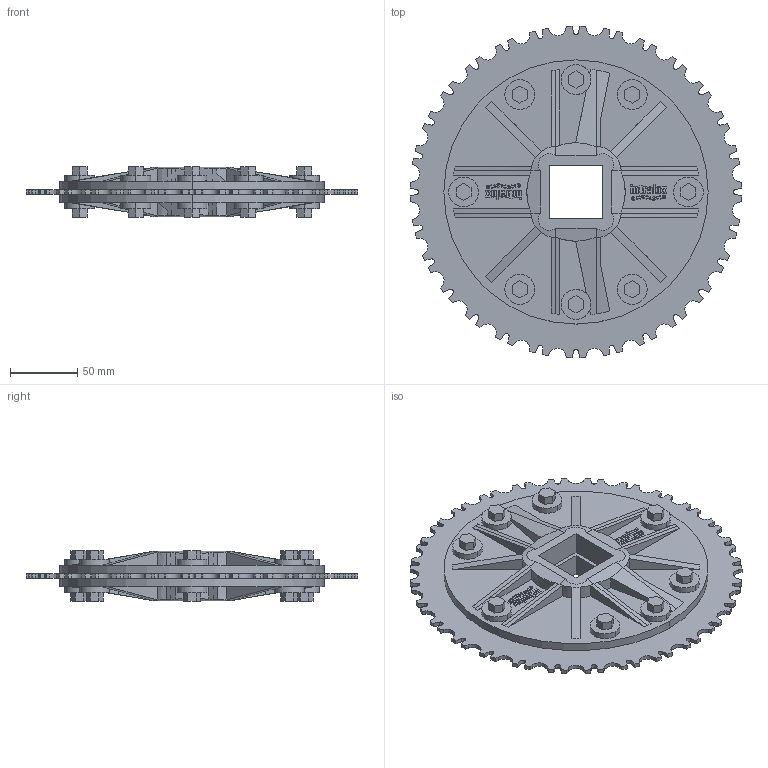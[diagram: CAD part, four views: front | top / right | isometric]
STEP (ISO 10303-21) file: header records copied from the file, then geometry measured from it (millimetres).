
FILE_DESCRIPTION((''),'2;1');
FILE_NAME('S900_SPL_METAL_98X15_40_SQ_ASM','2008-12-12T',('jmumphre'),(''),'PRO/ENGINEER BY PARAMETRIC TECHNOLOGY CORPORATION, 2008150','PRO/ENGINEER BY PARAMETRIC TECHNOLOGY CORPORATION, 2008150','');
FILE_SCHEMA(('CONFIG_CONTROL_DESIGN'));
Length unit declared in the file: inch
Products named in the file (5): S900_TP_METAL_98X254_SQ_AF0; JOINING_PLATE_8X15_40_SQ_AF4; JOINING_PLATE_8X15_40_SQ_AF5; BOLTS_N_NUTS_6-595X0-980_AF8; S900_SPL_METAL_98X15_40_SQ_ASM
Assembly tree (4 placements, depth 2):
  S900_SPL_METAL_98X15_40_SQ_ASM
    S900_TP_METAL_98X254_SQ_AF0
    JOINING_PLATE_8X15_40_SQ_AF4
    JOINING_PLATE_8X15_40_SQ_AF5
    BOLTS_N_NUTS_6-595X0-980_AF8
Bounding box: 247.35 x 247.35 x 37.59 mm (x, y, z)
Volume: 641118.2 mm3; surface area: 250167.4 mm2
Topology: 11 solids, 11 shells, 1508 faces, 4128 edges, 2736 vertices
Faces by surface type: plane 916, cylinder 512, bspline 56, extrusion 24
Entity records: 50249 total; most frequent: CARTESIAN_POINT 11125, ORIENTED_EDGE 8256, DIRECTION 7950, EDGE_CURVE 4128, VECTOR 2924, LINE 2900, VERTEX_POINT 2736, AXIS2_PLACEMENT_3D 2513
